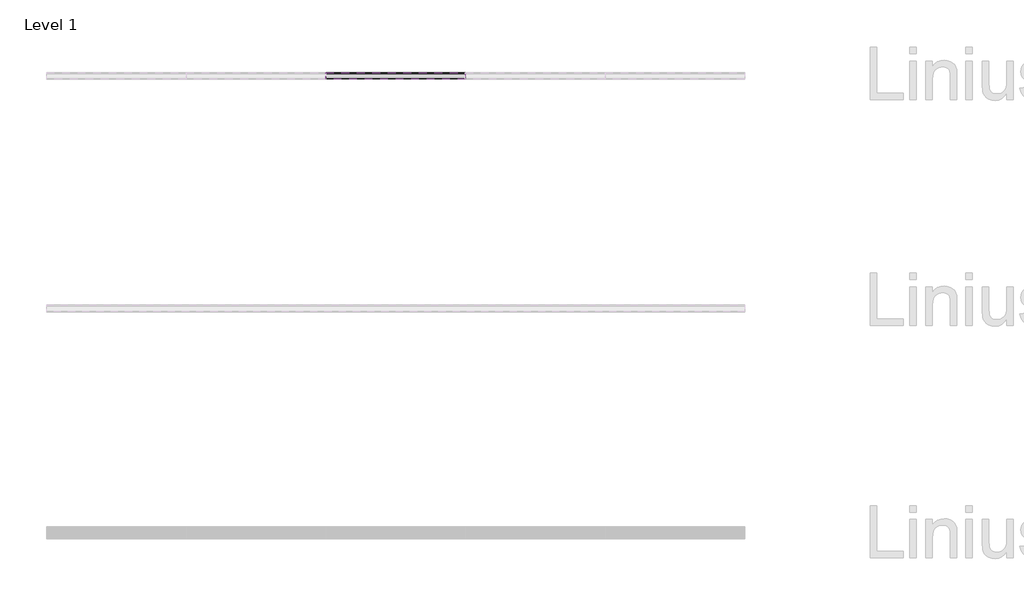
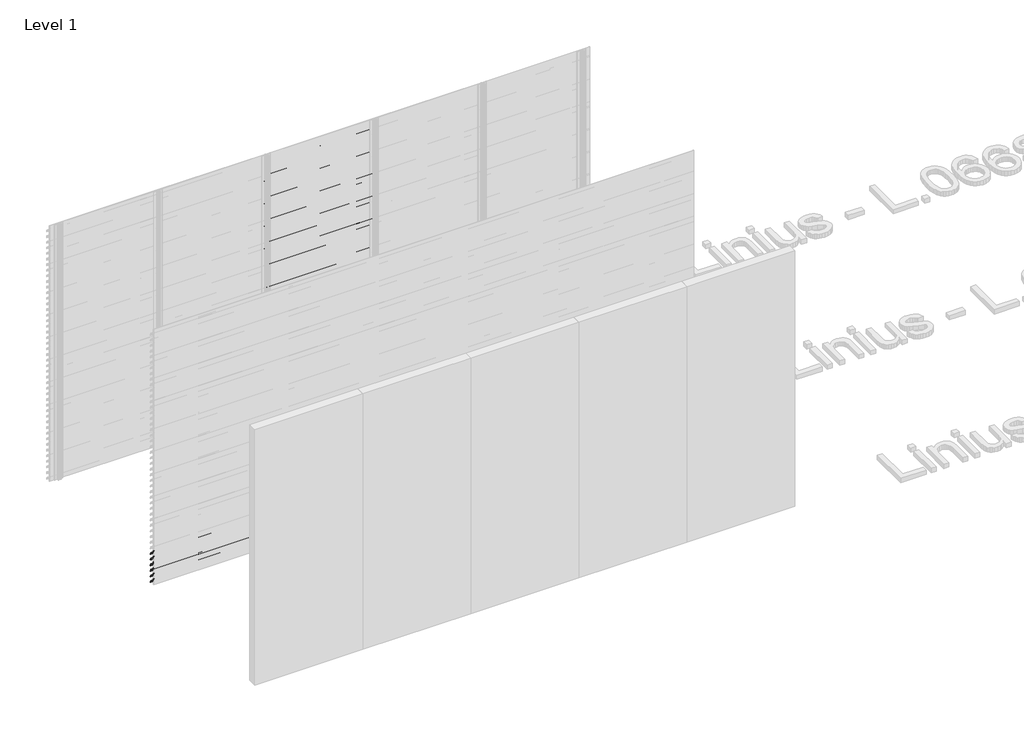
# One storey, part 121 of 540: 43 proxies.
"""IFC4 building model written with IfcOpenShell, lengths in millimetres."""

from ifc_helpers import new_model, si_unit, point, frame, frame_2d, origin, place, context, project, spatial, polyline, circle_curve, trimmed, segment, composite_curve, outline, extrude, element, save

model = new_model("IFC4")

# Units and contexts
model_context = context("Model", 3, world=origin())
ifc_project = project(units=[si_unit("LENGTHUNIT", "METRE", prefix="MILLI")], contexts=[model_context])

# Site, building, storey
site = spatial("IfcSite", under=ifc_project)
building = spatial("IfcBuilding", under=site)
storey = spatial("IfcBuildingStorey", under=building, Name="Level 1", Elevation=0.0)

# Proxies
placement = place(None, origin())
element("IfcBuildingElementProxy", 1, Name="Wall Sweeps", at=placement, inside=storey, context=model_context, shape_type="SweptSolid", body=[
    extrude(outline(composite_curve([segment(trimmed(circle_curve(frame_2d((7017.5825412, 2899.7676769)), 26.4944656), [point((7034.5447587, 2920.1205608))], [point((7044.0270068, 2901.3946208))], False, "CARTESIAN"), True, "CONTINUOUS"), segment(polyline([(7044.0270068, 2901.3946208), (7044.0270068, 2893.5), (7042.7770068, 2894.2216933), (7042.7770068, 2899.7676769)]), True, "CONTINUOUS"), segment(trimmed(circle_curve(frame_2d((7017.5825412, 2899.7676769)), 25.1944656), [point((7042.7770068, 2899.7676769))], [point((7033.7545017, 2919.086807))], True, "CARTESIAN"), True, "CONTINUOUS"), segment(polyline([(7033.7545017, 2919.086807), (6989.0270068, 2950.3158044), (6989.0270068, 2970.0), (6990.2770068, 2970.0), (6990.2770068, 2951.0285629), (7034.5447587, 2920.1205608)]), True, "CONTINUOUS")], self_intersect=False)), frame((91866.6208097, 0.0, 0.0), z_axis=(1.0, 0.0, 0.0), x_axis=(0.0, 1.0, 0.0)), (0.0, 0.0, 1.0), 1199.9999999),
])
element("IfcBuildingElementProxy", 2, Name="Wall Sweeps", at=placement, inside=storey, context=model_context, shape_type="SweptSolid", body=[
    extrude(outline(composite_curve([segment(trimmed(circle_curve(frame_2d((7017.5825412, 2833.7676769)), 26.4944656), [point((7034.5447587, 2854.1205608))], [point((7044.0270068, 2835.3946208))], False, "CARTESIAN"), True, "CONTINUOUS"), segment(polyline([(7044.0270068, 2835.3946208), (7044.0270068, 2827.5), (7042.7770068, 2828.2216933), (7042.7770068, 2833.7676769)]), True, "CONTINUOUS"), segment(trimmed(circle_curve(frame_2d((7017.5825412, 2833.7676769)), 25.1944656), [point((7042.7770068, 2833.7676769))], [point((7033.7545017, 2853.086807))], True, "CARTESIAN"), True, "CONTINUOUS"), segment(polyline([(7033.7545017, 2853.086807), (6989.0270068, 2884.3158044), (6989.0270068, 2904.0), (6990.2770068, 2904.0), (6990.2770068, 2885.0285629), (7034.5447587, 2854.1205608)]), True, "CONTINUOUS")], self_intersect=False)), frame((91866.6208097, 0.0, 0.0), z_axis=(1.0, 0.0, 0.0), x_axis=(0.0, 1.0, 0.0)), (0.0, 0.0, 1.0), 1199.9999999),
])
element("IfcBuildingElementProxy", 3, Name="Wall Sweeps", at=placement, inside=storey, context=model_context, shape_type="SweptSolid", body=[
    extrude(outline(composite_curve([segment(trimmed(circle_curve(frame_2d((7017.5825412, 2767.7676769)), 26.4944656), [point((7034.5447587, 2788.1205608))], [point((7044.0270068, 2769.3946208))], False, "CARTESIAN"), True, "CONTINUOUS"), segment(polyline([(7044.0270068, 2769.3946208), (7044.0270068, 2761.5), (7042.7770068, 2762.2216933), (7042.7770068, 2767.7676769)]), True, "CONTINUOUS"), segment(trimmed(circle_curve(frame_2d((7017.5825412, 2767.7676769)), 25.1944656), [point((7042.7770068, 2767.7676769))], [point((7033.7545017, 2787.086807))], True, "CARTESIAN"), True, "CONTINUOUS"), segment(polyline([(7033.7545017, 2787.086807), (6989.0270068, 2818.3158044), (6989.0270068, 2838.0), (6990.2770068, 2838.0), (6990.2770068, 2819.0285629), (7034.5447587, 2788.1205608)]), True, "CONTINUOUS")], self_intersect=False)), frame((91866.6208097, 0.0, 0.0), z_axis=(1.0, 0.0, 0.0), x_axis=(0.0, 1.0, 0.0)), (0.0, 0.0, 1.0), 1199.9999999),
])
element("IfcBuildingElementProxy", 4, Name="Wall Sweeps", at=placement, inside=storey, context=model_context, shape_type="SweptSolid", body=[
    extrude(outline(composite_curve([segment(trimmed(circle_curve(frame_2d((7017.5825412, 2701.7676769)), 26.4944656), [point((7034.5447587, 2722.1205608))], [point((7044.0270068, 2703.3946208))], False, "CARTESIAN"), True, "CONTINUOUS"), segment(polyline([(7044.0270068, 2703.3946208), (7044.0270068, 2695.5), (7042.7770068, 2696.2216933), (7042.7770068, 2701.7676769)]), True, "CONTINUOUS"), segment(trimmed(circle_curve(frame_2d((7017.5825412, 2701.7676769)), 25.1944656), [point((7042.7770068, 2701.7676769))], [point((7033.7545017, 2721.086807))], True, "CARTESIAN"), True, "CONTINUOUS"), segment(polyline([(7033.7545017, 2721.086807), (6989.0270068, 2752.3158044), (6989.0270068, 2772.0), (6990.2770068, 2772.0), (6990.2770068, 2753.0285629), (7034.5447587, 2722.1205608)]), True, "CONTINUOUS")], self_intersect=False)), frame((91866.6208097, 0.0, 0.0), z_axis=(1.0, 0.0, 0.0), x_axis=(0.0, 1.0, 0.0)), (0.0, 0.0, 1.0), 1199.9999999),
])
element("IfcBuildingElementProxy", 5, Name="Wall Sweeps", at=placement, inside=storey, context=model_context, shape_type="SweptSolid", body=[
    extrude(outline(composite_curve([segment(trimmed(circle_curve(frame_2d((7017.5825412, 2635.7676769)), 26.4944656), [point((7034.5447587, 2656.1205608))], [point((7044.0270068, 2637.3946208))], False, "CARTESIAN"), True, "CONTINUOUS"), segment(polyline([(7044.0270068, 2637.3946208), (7044.0270068, 2629.5), (7042.7770068, 2630.2216933), (7042.7770068, 2635.7676769)]), True, "CONTINUOUS"), segment(trimmed(circle_curve(frame_2d((7017.5825412, 2635.7676769)), 25.1944656), [point((7042.7770068, 2635.7676769))], [point((7033.7545017, 2655.086807))], True, "CARTESIAN"), True, "CONTINUOUS"), segment(polyline([(7033.7545017, 2655.086807), (6989.0270068, 2686.3158044), (6989.0270068, 2706.0), (6990.2770068, 2706.0), (6990.2770068, 2687.0285629), (7034.5447587, 2656.1205608)]), True, "CONTINUOUS")], self_intersect=False)), frame((91866.6208097, 0.0, 0.0), z_axis=(1.0, 0.0, 0.0), x_axis=(0.0, 1.0, 0.0)), (0.0, 0.0, 1.0), 1199.9999999),
])
element("IfcBuildingElementProxy", 6, Name="Wall Sweeps", at=placement, inside=storey, context=model_context, shape_type="SweptSolid", body=[
    extrude(outline(composite_curve([segment(trimmed(circle_curve(frame_2d((7017.5825412, 2569.7676769)), 26.4944656), [point((7034.5447587, 2590.1205608))], [point((7044.0270068, 2571.3946208))], False, "CARTESIAN"), True, "CONTINUOUS"), segment(polyline([(7044.0270068, 2571.3946208), (7044.0270068, 2563.5), (7042.7770068, 2564.2216933), (7042.7770068, 2569.7676769)]), True, "CONTINUOUS"), segment(trimmed(circle_curve(frame_2d((7017.5825412, 2569.7676769)), 25.1944656), [point((7042.7770068, 2569.7676769))], [point((7033.7545017, 2589.086807))], True, "CARTESIAN"), True, "CONTINUOUS"), segment(polyline([(7033.7545017, 2589.086807), (6989.0270068, 2620.3158044), (6989.0270068, 2640.0), (6990.2770068, 2640.0), (6990.2770068, 2621.0285629), (7034.5447587, 2590.1205608)]), True, "CONTINUOUS")], self_intersect=False)), frame((91866.6208097, 0.0, 0.0), z_axis=(1.0, 0.0, 0.0), x_axis=(0.0, 1.0, 0.0)), (0.0, 0.0, 1.0), 1199.9999999),
])
element("IfcBuildingElementProxy", 7, Name="Wall Sweeps", at=placement, inside=storey, context=model_context, shape_type="SweptSolid", body=[
    extrude(outline(composite_curve([segment(trimmed(circle_curve(frame_2d((7017.5825412, 2503.7676769)), 26.4944656), [point((7034.5447587, 2524.1205608))], [point((7044.0270068, 2505.3946208))], False, "CARTESIAN"), True, "CONTINUOUS"), segment(polyline([(7044.0270068, 2505.3946208), (7044.0270068, 2497.5), (7042.7770068, 2498.2216933), (7042.7770068, 2503.7676769)]), True, "CONTINUOUS"), segment(trimmed(circle_curve(frame_2d((7017.5825412, 2503.7676769)), 25.1944656), [point((7042.7770068, 2503.7676769))], [point((7033.7545017, 2523.086807))], True, "CARTESIAN"), True, "CONTINUOUS"), segment(polyline([(7033.7545017, 2523.086807), (6989.0270068, 2554.3158044), (6989.0270068, 2574.0), (6990.2770068, 2574.0), (6990.2770068, 2555.0285629), (7034.5447587, 2524.1205608)]), True, "CONTINUOUS")], self_intersect=False)), frame((91866.6208097, 0.0, 0.0), z_axis=(1.0, 0.0, 0.0), x_axis=(0.0, 1.0, 0.0)), (0.0, 0.0, 1.0), 1199.9999999),
])
element("IfcBuildingElementProxy", 8, Name="Wall Sweeps", at=placement, inside=storey, context=model_context, shape_type="SweptSolid", body=[
    extrude(outline(composite_curve([segment(trimmed(circle_curve(frame_2d((7017.5825412, 2437.7676769)), 26.4944656), [point((7034.5447587, 2458.1205608))], [point((7044.0270068, 2439.3946208))], False, "CARTESIAN"), True, "CONTINUOUS"), segment(polyline([(7044.0270068, 2439.3946208), (7044.0270068, 2431.5), (7042.7770068, 2432.2216933), (7042.7770068, 2437.7676769)]), True, "CONTINUOUS"), segment(trimmed(circle_curve(frame_2d((7017.5825412, 2437.7676769)), 25.1944656), [point((7042.7770068, 2437.7676769))], [point((7033.7545017, 2457.086807))], True, "CARTESIAN"), True, "CONTINUOUS"), segment(polyline([(7033.7545017, 2457.086807), (6989.0270068, 2488.3158044), (6989.0270068, 2508.0), (6990.2770068, 2508.0), (6990.2770068, 2489.0285629), (7034.5447587, 2458.1205608)]), True, "CONTINUOUS")], self_intersect=False)), frame((91866.6208097, 0.0, 0.0), z_axis=(1.0, 0.0, 0.0), x_axis=(0.0, 1.0, 0.0)), (0.0, 0.0, 1.0), 1199.9999999),
])
element("IfcBuildingElementProxy", 9, Name="Wall Sweeps", at=placement, inside=storey, context=model_context, shape_type="SweptSolid", body=[
    extrude(outline(composite_curve([segment(trimmed(circle_curve(frame_2d((7017.5825412, 2371.7676769)), 26.4944656), [point((7034.5447587, 2392.1205608))], [point((7044.0270068, 2373.3946208))], False, "CARTESIAN"), True, "CONTINUOUS"), segment(polyline([(7044.0270068, 2373.3946208), (7044.0270068, 2365.5), (7042.7770068, 2366.2216933), (7042.7770068, 2371.7676769)]), True, "CONTINUOUS"), segment(trimmed(circle_curve(frame_2d((7017.5825412, 2371.7676769)), 25.1944656), [point((7042.7770068, 2371.7676769))], [point((7033.7545017, 2391.086807))], True, "CARTESIAN"), True, "CONTINUOUS"), segment(polyline([(7033.7545017, 2391.086807), (6989.0270068, 2422.3158044), (6989.0270068, 2442.0), (6990.2770068, 2442.0), (6990.2770068, 2423.0285629), (7034.5447587, 2392.1205608)]), True, "CONTINUOUS")], self_intersect=False)), frame((91866.6208097, 0.0, 0.0), z_axis=(1.0, 0.0, 0.0), x_axis=(0.0, 1.0, 0.0)), (0.0, 0.0, 1.0), 1199.9999999),
])
element("IfcBuildingElementProxy", 10, Name="Wall Sweeps", at=placement, inside=storey, context=model_context, shape_type="SweptSolid", body=[
    extrude(outline(composite_curve([segment(trimmed(circle_curve(frame_2d((7017.5825412, 2305.7676769)), 26.4944656), [point((7034.5447587, 2326.1205608))], [point((7044.0270068, 2307.3946208))], False, "CARTESIAN"), True, "CONTINUOUS"), segment(polyline([(7044.0270068, 2307.3946208), (7044.0270068, 2299.5), (7042.7770068, 2300.2216933), (7042.7770068, 2305.7676769)]), True, "CONTINUOUS"), segment(trimmed(circle_curve(frame_2d((7017.5825412, 2305.7676769)), 25.1944656), [point((7042.7770068, 2305.7676769))], [point((7033.7545017, 2325.086807))], True, "CARTESIAN"), True, "CONTINUOUS"), segment(polyline([(7033.7545017, 2325.086807), (6989.0270068, 2356.3158044), (6989.0270068, 2376.0), (6990.2770068, 2376.0), (6990.2770068, 2357.0285629), (7034.5447587, 2326.1205608)]), True, "CONTINUOUS")], self_intersect=False)), frame((91866.6208097, 0.0, 0.0), z_axis=(1.0, 0.0, 0.0), x_axis=(0.0, 1.0, 0.0)), (0.0, 0.0, 1.0), 1199.9999999),
])
element("IfcBuildingElementProxy", 11, Name="Wall Sweeps", at=placement, inside=storey, context=model_context, shape_type="SweptSolid", body=[
    extrude(outline(composite_curve([segment(trimmed(circle_curve(frame_2d((7017.5825412, 2239.7676769)), 26.4944656), [point((7034.5447587, 2260.1205608))], [point((7044.0270068, 2241.3946208))], False, "CARTESIAN"), True, "CONTINUOUS"), segment(polyline([(7044.0270068, 2241.3946208), (7044.0270068, 2233.5), (7042.7770068, 2234.2216933), (7042.7770068, 2239.7676769)]), True, "CONTINUOUS"), segment(trimmed(circle_curve(frame_2d((7017.5825412, 2239.7676769)), 25.1944656), [point((7042.7770068, 2239.7676769))], [point((7033.7545017, 2259.086807))], True, "CARTESIAN"), True, "CONTINUOUS"), segment(polyline([(7033.7545017, 2259.086807), (6989.0270068, 2290.3158044), (6989.0270068, 2310.0), (6990.2770068, 2310.0), (6990.2770068, 2291.0285629), (7034.5447587, 2260.1205608)]), True, "CONTINUOUS")], self_intersect=False)), frame((91866.6208097, 0.0, 0.0), z_axis=(1.0, 0.0, 0.0), x_axis=(0.0, 1.0, 0.0)), (0.0, 0.0, 1.0), 1199.9999999),
])
element("IfcBuildingElementProxy", 12, Name="Wall Sweeps", at=placement, inside=storey, context=model_context, shape_type="SweptSolid", body=[
    extrude(outline(composite_curve([segment(trimmed(circle_curve(frame_2d((7017.5825412, 2173.7676769)), 26.4944656), [point((7034.5447587, 2194.1205608))], [point((7044.0270068, 2175.3946208))], False, "CARTESIAN"), True, "CONTINUOUS"), segment(polyline([(7044.0270068, 2175.3946208), (7044.0270068, 2167.5), (7042.7770068, 2168.2216933), (7042.7770068, 2173.7676769)]), True, "CONTINUOUS"), segment(trimmed(circle_curve(frame_2d((7017.5825412, 2173.7676769)), 25.1944656), [point((7042.7770068, 2173.7676769))], [point((7033.7545017, 2193.086807))], True, "CARTESIAN"), True, "CONTINUOUS"), segment(polyline([(7033.7545017, 2193.086807), (6989.0270068, 2224.3158044), (6989.0270068, 2244.0), (6990.2770068, 2244.0), (6990.2770068, 2225.0285629), (7034.5447587, 2194.1205608)]), True, "CONTINUOUS")], self_intersect=False)), frame((91866.6208097, 0.0, 0.0), z_axis=(1.0, 0.0, 0.0), x_axis=(0.0, 1.0, 0.0)), (0.0, 0.0, 1.0), 1199.9999999),
])
element("IfcBuildingElementProxy", 13, Name="Wall Sweeps", at=placement, inside=storey, context=model_context, shape_type="SweptSolid", body=[
    extrude(outline(composite_curve([segment(trimmed(circle_curve(frame_2d((7017.5825412, 2107.7676769)), 26.4944656), [point((7034.5447587, 2128.1205608))], [point((7044.0270068, 2109.3946208))], False, "CARTESIAN"), True, "CONTINUOUS"), segment(polyline([(7044.0270068, 2109.3946208), (7044.0270068, 2101.5), (7042.7770068, 2102.2216933), (7042.7770068, 2107.7676769)]), True, "CONTINUOUS"), segment(trimmed(circle_curve(frame_2d((7017.5825412, 2107.7676769)), 25.1944656), [point((7042.7770068, 2107.7676769))], [point((7033.7545017, 2127.086807))], True, "CARTESIAN"), True, "CONTINUOUS"), segment(polyline([(7033.7545017, 2127.086807), (6989.0270068, 2158.3158044), (6989.0270068, 2178.0), (6990.2770068, 2178.0), (6990.2770068, 2159.0285629), (7034.5447587, 2128.1205608)]), True, "CONTINUOUS")], self_intersect=False)), frame((91866.6208097, 0.0, 0.0), z_axis=(1.0, 0.0, 0.0), x_axis=(0.0, 1.0, 0.0)), (0.0, 0.0, 1.0), 1199.9999999),
])
element("IfcBuildingElementProxy", 14, Name="Wall Sweeps", at=placement, inside=storey, context=model_context, shape_type="SweptSolid", body=[
    extrude(outline(composite_curve([segment(trimmed(circle_curve(frame_2d((7017.5825412, 2041.7676769)), 26.4944656), [point((7034.5447587, 2062.1205608))], [point((7044.0270068, 2043.3946208))], False, "CARTESIAN"), True, "CONTINUOUS"), segment(polyline([(7044.0270068, 2043.3946208), (7044.0270068, 2035.5), (7042.7770068, 2036.2216933), (7042.7770068, 2041.7676769)]), True, "CONTINUOUS"), segment(trimmed(circle_curve(frame_2d((7017.5825412, 2041.7676769)), 25.1944656), [point((7042.7770068, 2041.7676769))], [point((7033.7545017, 2061.086807))], True, "CARTESIAN"), True, "CONTINUOUS"), segment(polyline([(7033.7545017, 2061.086807), (6989.0270068, 2092.3158044), (6989.0270068, 2112.0), (6990.2770068, 2112.0), (6990.2770068, 2093.0285629), (7034.5447587, 2062.1205608)]), True, "CONTINUOUS")], self_intersect=False)), frame((91866.6208097, 0.0, 0.0), z_axis=(1.0, 0.0, 0.0), x_axis=(0.0, 1.0, 0.0)), (0.0, 0.0, 1.0), 1199.9999999),
])
element("IfcBuildingElementProxy", 15, Name="Wall Sweeps", at=placement, inside=storey, context=model_context, shape_type="SweptSolid", body=[
    extrude(outline(composite_curve([segment(trimmed(circle_curve(frame_2d((7017.5825412, 1975.7676769)), 26.4944656), [point((7034.5447587, 1996.1205608))], [point((7044.0270068, 1977.3946208))], False, "CARTESIAN"), True, "CONTINUOUS"), segment(polyline([(7044.0270068, 1977.3946208), (7044.0270068, 1969.5), (7042.7770068, 1970.2216933), (7042.7770068, 1975.7676769)]), True, "CONTINUOUS"), segment(trimmed(circle_curve(frame_2d((7017.5825412, 1975.7676769)), 25.1944656), [point((7042.7770068, 1975.7676769))], [point((7033.7545017, 1995.086807))], True, "CARTESIAN"), True, "CONTINUOUS"), segment(polyline([(7033.7545017, 1995.086807), (6989.0270068, 2026.3158044), (6989.0270068, 2046.0), (6990.2770068, 2046.0), (6990.2770068, 2027.0285629), (7034.5447587, 1996.1205608)]), True, "CONTINUOUS")], self_intersect=False)), frame((91866.6208097, 0.0, 0.0), z_axis=(1.0, 0.0, 0.0), x_axis=(0.0, 1.0, 0.0)), (0.0, 0.0, 1.0), 1199.9999999),
])
element("IfcBuildingElementProxy", 16, Name="Wall Sweeps", at=placement, inside=storey, context=model_context, shape_type="SweptSolid", body=[
    extrude(outline(composite_curve([segment(trimmed(circle_curve(frame_2d((7017.5825412, 1909.7676769)), 26.4944656), [point((7034.5447587, 1930.1205608))], [point((7044.0270068, 1911.3946208))], False, "CARTESIAN"), True, "CONTINUOUS"), segment(polyline([(7044.0270068, 1911.3946208), (7044.0270068, 1903.5), (7042.7770068, 1904.2216933), (7042.7770068, 1909.7676769)]), True, "CONTINUOUS"), segment(trimmed(circle_curve(frame_2d((7017.5825412, 1909.7676769)), 25.1944656), [point((7042.7770068, 1909.7676769))], [point((7033.7545017, 1929.086807))], True, "CARTESIAN"), True, "CONTINUOUS"), segment(polyline([(7033.7545017, 1929.086807), (6989.0270068, 1960.3158044), (6989.0270068, 1980.0), (6990.2770068, 1980.0), (6990.2770068, 1961.0285629), (7034.5447587, 1930.1205608)]), True, "CONTINUOUS")], self_intersect=False)), frame((91866.6208097, 0.0, 0.0), z_axis=(1.0, 0.0, 0.0), x_axis=(0.0, 1.0, 0.0)), (0.0, 0.0, 1.0), 1199.9999999),
])
element("IfcBuildingElementProxy", 17, Name="Wall Sweeps", at=placement, inside=storey, context=model_context, shape_type="SweptSolid", body=[
    extrude(outline(composite_curve([segment(trimmed(circle_curve(frame_2d((7017.5825412, 1843.7676769)), 26.4944656), [point((7034.5447587, 1864.1205608))], [point((7044.0270068, 1845.3946208))], False, "CARTESIAN"), True, "CONTINUOUS"), segment(polyline([(7044.0270068, 1845.3946208), (7044.0270068, 1837.5), (7042.7770068, 1838.2216933), (7042.7770068, 1843.7676769)]), True, "CONTINUOUS"), segment(trimmed(circle_curve(frame_2d((7017.5825412, 1843.7676769)), 25.1944656), [point((7042.7770068, 1843.7676769))], [point((7033.7545017, 1863.086807))], True, "CARTESIAN"), True, "CONTINUOUS"), segment(polyline([(7033.7545017, 1863.086807), (6989.0270068, 1894.3158044), (6989.0270068, 1914.0), (6990.2770068, 1914.0), (6990.2770068, 1895.0285629), (7034.5447587, 1864.1205608)]), True, "CONTINUOUS")], self_intersect=False)), frame((91866.6208097, 0.0, 0.0), z_axis=(1.0, 0.0, 0.0), x_axis=(0.0, 1.0, 0.0)), (0.0, 0.0, 1.0), 1199.9999999),
])
element("IfcBuildingElementProxy", 18, Name="Wall Sweeps", at=placement, inside=storey, context=model_context, shape_type="SweptSolid", body=[
    extrude(outline(composite_curve([segment(trimmed(circle_curve(frame_2d((7017.5825412, 1777.7676769)), 26.4944656), [point((7034.5447587, 1798.1205608))], [point((7044.0270068, 1779.3946208))], False, "CARTESIAN"), True, "CONTINUOUS"), segment(polyline([(7044.0270068, 1779.3946208), (7044.0270068, 1771.5), (7042.7770068, 1772.2216933), (7042.7770068, 1777.7676769)]), True, "CONTINUOUS"), segment(trimmed(circle_curve(frame_2d((7017.5825412, 1777.7676769)), 25.1944656), [point((7042.7770068, 1777.7676769))], [point((7033.7545017, 1797.086807))], True, "CARTESIAN"), True, "CONTINUOUS"), segment(polyline([(7033.7545017, 1797.086807), (6989.0270068, 1828.3158044), (6989.0270068, 1848.0), (6990.2770068, 1848.0), (6990.2770068, 1829.0285629), (7034.5447587, 1798.1205608)]), True, "CONTINUOUS")], self_intersect=False)), frame((91866.6208097, 0.0, 0.0), z_axis=(1.0, 0.0, 0.0), x_axis=(0.0, 1.0, 0.0)), (0.0, 0.0, 1.0), 1199.9999999),
])
element("IfcBuildingElementProxy", 19, Name="Wall Sweeps", at=placement, inside=storey, context=model_context, shape_type="SweptSolid", body=[
    extrude(outline(composite_curve([segment(trimmed(circle_curve(frame_2d((7017.5825412, 1711.7676769)), 26.4944656), [point((7034.5447587, 1732.1205608))], [point((7044.0270068, 1713.3946208))], False, "CARTESIAN"), True, "CONTINUOUS"), segment(polyline([(7044.0270068, 1713.3946208), (7044.0270068, 1705.5), (7042.7770068, 1706.2216933), (7042.7770068, 1711.7676769)]), True, "CONTINUOUS"), segment(trimmed(circle_curve(frame_2d((7017.5825412, 1711.7676769)), 25.1944656), [point((7042.7770068, 1711.7676769))], [point((7033.7545017, 1731.086807))], True, "CARTESIAN"), True, "CONTINUOUS"), segment(polyline([(7033.7545017, 1731.086807), (6989.0270068, 1762.3158044), (6989.0270068, 1782.0), (6990.2770068, 1782.0), (6990.2770068, 1763.0285629), (7034.5447587, 1732.1205608)]), True, "CONTINUOUS")], self_intersect=False)), frame((91866.6208097, 0.0, 0.0), z_axis=(1.0, 0.0, 0.0), x_axis=(0.0, 1.0, 0.0)), (0.0, 0.0, 1.0), 1199.9999999),
])
element("IfcBuildingElementProxy", 20, Name="Wall Sweeps", at=placement, inside=storey, context=model_context, shape_type="SweptSolid", body=[
    extrude(outline(composite_curve([segment(trimmed(circle_curve(frame_2d((7017.5825412, 1645.7676769)), 26.4944656), [point((7034.5447587, 1666.1205608))], [point((7044.0270068, 1647.3946208))], False, "CARTESIAN"), True, "CONTINUOUS"), segment(polyline([(7044.0270068, 1647.3946208), (7044.0270068, 1639.5), (7042.7770068, 1640.2216933), (7042.7770068, 1645.7676769)]), True, "CONTINUOUS"), segment(trimmed(circle_curve(frame_2d((7017.5825412, 1645.7676769)), 25.1944656), [point((7042.7770068, 1645.7676769))], [point((7033.7545017, 1665.086807))], True, "CARTESIAN"), True, "CONTINUOUS"), segment(polyline([(7033.7545017, 1665.086807), (6989.0270068, 1696.3158044), (6989.0270068, 1716.0), (6990.2770068, 1716.0), (6990.2770068, 1697.0285629), (7034.5447587, 1666.1205608)]), True, "CONTINUOUS")], self_intersect=False)), frame((91866.6208097, 0.0, 0.0), z_axis=(1.0, 0.0, 0.0), x_axis=(0.0, 1.0, 0.0)), (0.0, 0.0, 1.0), 1199.9999999),
])
element("IfcBuildingElementProxy", 21, Name="Wall Sweeps", at=placement, inside=storey, context=model_context, shape_type="SweptSolid", body=[
    extrude(outline(composite_curve([segment(trimmed(circle_curve(frame_2d((7017.5825412, 1579.7676769)), 26.4944656), [point((7034.5447587, 1600.1205608))], [point((7044.0270068, 1581.3946208))], False, "CARTESIAN"), True, "CONTINUOUS"), segment(polyline([(7044.0270068, 1581.3946208), (7044.0270068, 1573.5), (7042.7770068, 1574.2216933), (7042.7770068, 1579.7676769)]), True, "CONTINUOUS"), segment(trimmed(circle_curve(frame_2d((7017.5825412, 1579.7676769)), 25.1944656), [point((7042.7770068, 1579.7676769))], [point((7033.7545017, 1599.086807))], True, "CARTESIAN"), True, "CONTINUOUS"), segment(polyline([(7033.7545017, 1599.086807), (6989.0270068, 1630.3158044), (6989.0270068, 1650.0), (6990.2770068, 1650.0), (6990.2770068, 1631.0285629), (7034.5447587, 1600.1205608)]), True, "CONTINUOUS")], self_intersect=False)), frame((91866.6208097, 0.0, 0.0), z_axis=(1.0, 0.0, 0.0), x_axis=(0.0, 1.0, 0.0)), (0.0, 0.0, 1.0), 1199.9999999),
])
element("IfcBuildingElementProxy", 22, Name="Wall Sweeps", at=placement, inside=storey, context=model_context, shape_type="SweptSolid", body=[
    extrude(outline(composite_curve([segment(trimmed(circle_curve(frame_2d((7017.5825412, 1513.7676769)), 26.4944656), [point((7034.5447587, 1534.1205608))], [point((7044.0270068, 1515.3946208))], False, "CARTESIAN"), True, "CONTINUOUS"), segment(polyline([(7044.0270068, 1515.3946208), (7044.0270068, 1507.5), (7042.7770068, 1508.2216933), (7042.7770068, 1513.7676769)]), True, "CONTINUOUS"), segment(trimmed(circle_curve(frame_2d((7017.5825412, 1513.7676769)), 25.1944656), [point((7042.7770068, 1513.7676769))], [point((7033.7545017, 1533.086807))], True, "CARTESIAN"), True, "CONTINUOUS"), segment(polyline([(7033.7545017, 1533.086807), (6989.0270068, 1564.3158044), (6989.0270068, 1584.0), (6990.2770068, 1584.0), (6990.2770068, 1565.0285629), (7034.5447587, 1534.1205608)]), True, "CONTINUOUS")], self_intersect=False)), frame((91866.6208097, 0.0, 0.0), z_axis=(1.0, 0.0, 0.0), x_axis=(0.0, 1.0, 0.0)), (0.0, 0.0, 1.0), 1199.9999999),
])
element("IfcBuildingElementProxy", 23, Name="Wall Sweeps", at=placement, inside=storey, context=model_context, shape_type="SweptSolid", body=[
    extrude(outline(composite_curve([segment(trimmed(circle_curve(frame_2d((7017.5825412, 1447.7676769)), 26.4944656), [point((7034.5447587, 1468.1205608))], [point((7044.0270068, 1449.3946208))], False, "CARTESIAN"), True, "CONTINUOUS"), segment(polyline([(7044.0270068, 1449.3946208), (7044.0270068, 1441.5), (7042.7770068, 1442.2216933), (7042.7770068, 1447.7676769)]), True, "CONTINUOUS"), segment(trimmed(circle_curve(frame_2d((7017.5825412, 1447.7676769)), 25.1944656), [point((7042.7770068, 1447.7676769))], [point((7033.7545017, 1467.086807))], True, "CARTESIAN"), True, "CONTINUOUS"), segment(polyline([(7033.7545017, 1467.086807), (6989.0270068, 1498.3158044), (6989.0270068, 1518.0), (6990.2770068, 1518.0), (6990.2770068, 1499.0285629), (7034.5447587, 1468.1205608)]), True, "CONTINUOUS")], self_intersect=False)), frame((91866.6208097, 0.0, 0.0), z_axis=(1.0, 0.0, 0.0), x_axis=(0.0, 1.0, 0.0)), (0.0, 0.0, 1.0), 1199.9999999),
])
element("IfcBuildingElementProxy", 24, Name="Wall Sweeps", at=placement, inside=storey, context=model_context, shape_type="SweptSolid", body=[
    extrude(outline(composite_curve([segment(trimmed(circle_curve(frame_2d((7017.5825412, 1381.7676769)), 26.4944656), [point((7034.5447587, 1402.1205608))], [point((7044.0270068, 1383.3946208))], False, "CARTESIAN"), True, "CONTINUOUS"), segment(polyline([(7044.0270068, 1383.3946208), (7044.0270068, 1375.5), (7042.7770068, 1376.2216933), (7042.7770068, 1381.7676769)]), True, "CONTINUOUS"), segment(trimmed(circle_curve(frame_2d((7017.5825412, 1381.7676769)), 25.1944656), [point((7042.7770068, 1381.7676769))], [point((7033.7545017, 1401.086807))], True, "CARTESIAN"), True, "CONTINUOUS"), segment(polyline([(7033.7545017, 1401.086807), (6989.0270068, 1432.3158044), (6989.0270068, 1452.0), (6990.2770068, 1452.0), (6990.2770068, 1433.0285629), (7034.5447587, 1402.1205608)]), True, "CONTINUOUS")], self_intersect=False)), frame((91866.6208097, 0.0, 0.0), z_axis=(1.0, 0.0, 0.0), x_axis=(0.0, 1.0, 0.0)), (0.0, 0.0, 1.0), 1199.9999999),
])
element("IfcBuildingElementProxy", 25, Name="Wall Sweeps", at=placement, inside=storey, context=model_context, shape_type="SweptSolid", body=[
    extrude(outline(composite_curve([segment(trimmed(circle_curve(frame_2d((7017.5825412, 1315.7676769)), 26.4944656), [point((7034.5447587, 1336.1205608))], [point((7044.0270068, 1317.3946208))], False, "CARTESIAN"), True, "CONTINUOUS"), segment(polyline([(7044.0270068, 1317.3946208), (7044.0270068, 1309.5), (7042.7770068, 1310.2216933), (7042.7770068, 1315.7676769)]), True, "CONTINUOUS"), segment(trimmed(circle_curve(frame_2d((7017.5825412, 1315.7676769)), 25.1944656), [point((7042.7770068, 1315.7676769))], [point((7033.7545017, 1335.086807))], True, "CARTESIAN"), True, "CONTINUOUS"), segment(polyline([(7033.7545017, 1335.086807), (6989.0270068, 1366.3158044), (6989.0270068, 1386.0), (6990.2770068, 1386.0), (6990.2770068, 1367.0285629), (7034.5447587, 1336.1205608)]), True, "CONTINUOUS")], self_intersect=False)), frame((91866.6208097, 0.0, 0.0), z_axis=(1.0, 0.0, 0.0), x_axis=(0.0, 1.0, 0.0)), (0.0, 0.0, 1.0), 1199.9999999),
])
element("IfcBuildingElementProxy", 26, Name="Wall Sweeps", at=placement, inside=storey, context=model_context, shape_type="SweptSolid", body=[
    extrude(outline(composite_curve([segment(trimmed(circle_curve(frame_2d((7017.5825412, 1249.7676769)), 26.4944656), [point((7034.5447587, 1270.1205608))], [point((7044.0270068, 1251.3946208))], False, "CARTESIAN"), True, "CONTINUOUS"), segment(polyline([(7044.0270068, 1251.3946208), (7044.0270068, 1243.5), (7042.7770068, 1244.2216933), (7042.7770068, 1249.7676769)]), True, "CONTINUOUS"), segment(trimmed(circle_curve(frame_2d((7017.5825412, 1249.7676769)), 25.1944656), [point((7042.7770068, 1249.7676769))], [point((7033.7545017, 1269.086807))], True, "CARTESIAN"), True, "CONTINUOUS"), segment(polyline([(7033.7545017, 1269.086807), (6989.0270068, 1300.3158044), (6989.0270068, 1320.0), (6990.2770068, 1320.0), (6990.2770068, 1301.0285629), (7034.5447587, 1270.1205608)]), True, "CONTINUOUS")], self_intersect=False)), frame((91866.6208097, 0.0, 0.0), z_axis=(1.0, 0.0, 0.0), x_axis=(0.0, 1.0, 0.0)), (0.0, 0.0, 1.0), 1199.9999999),
])
element("IfcBuildingElementProxy", 27, Name="Wall Sweeps", at=placement, inside=storey, context=model_context, shape_type="SweptSolid", body=[
    extrude(outline(composite_curve([segment(trimmed(circle_curve(frame_2d((7017.5825412, 1183.7676769)), 26.4944656), [point((7034.5447587, 1204.1205608))], [point((7044.0270068, 1185.3946208))], False, "CARTESIAN"), True, "CONTINUOUS"), segment(polyline([(7044.0270068, 1185.3946208), (7044.0270068, 1177.5), (7042.7770068, 1178.2216933), (7042.7770068, 1183.7676769)]), True, "CONTINUOUS"), segment(trimmed(circle_curve(frame_2d((7017.5825412, 1183.7676769)), 25.1944656), [point((7042.7770068, 1183.7676769))], [point((7033.7545017, 1203.086807))], True, "CARTESIAN"), True, "CONTINUOUS"), segment(polyline([(7033.7545017, 1203.086807), (6989.0270068, 1234.3158044), (6989.0270068, 1254.0), (6990.2770068, 1254.0), (6990.2770068, 1235.0285629), (7034.5447587, 1204.1205608)]), True, "CONTINUOUS")], self_intersect=False)), frame((91866.6208097, 0.0, 0.0), z_axis=(1.0, 0.0, 0.0), x_axis=(0.0, 1.0, 0.0)), (0.0, 0.0, 1.0), 1199.9999999),
])
element("IfcBuildingElementProxy", 28, Name="Wall Sweeps", at=placement, inside=storey, context=model_context, shape_type="SweptSolid", body=[
    extrude(outline(composite_curve([segment(trimmed(circle_curve(frame_2d((7017.5825412, 1117.7676769)), 26.4944656), [point((7034.5447587, 1138.1205608))], [point((7044.0270068, 1119.3946208))], False, "CARTESIAN"), True, "CONTINUOUS"), segment(polyline([(7044.0270068, 1119.3946208), (7044.0270068, 1111.5), (7042.7770068, 1112.2216933), (7042.7770068, 1117.7676769)]), True, "CONTINUOUS"), segment(trimmed(circle_curve(frame_2d((7017.5825412, 1117.7676769)), 25.1944656), [point((7042.7770068, 1117.7676769))], [point((7033.7545017, 1137.086807))], True, "CARTESIAN"), True, "CONTINUOUS"), segment(polyline([(7033.7545017, 1137.086807), (6989.0270068, 1168.3158044), (6989.0270068, 1188.0), (6990.2770068, 1188.0), (6990.2770068, 1169.0285629), (7034.5447587, 1138.1205608)]), True, "CONTINUOUS")], self_intersect=False)), frame((91866.6208097, 0.0, 0.0), z_axis=(1.0, 0.0, 0.0), x_axis=(0.0, 1.0, 0.0)), (0.0, 0.0, 1.0), 1199.9999999),
])
element("IfcBuildingElementProxy", 29, Name="Wall Sweeps", at=placement, inside=storey, context=model_context, shape_type="SweptSolid", body=[
    extrude(outline(composite_curve([segment(trimmed(circle_curve(frame_2d((7017.5825412, 1051.7676769)), 26.4944656), [point((7034.5447587, 1072.1205608))], [point((7044.0270068, 1053.3946208))], False, "CARTESIAN"), True, "CONTINUOUS"), segment(polyline([(7044.0270068, 1053.3946208), (7044.0270068, 1045.5), (7042.7770068, 1046.2216933), (7042.7770068, 1051.7676769)]), True, "CONTINUOUS"), segment(trimmed(circle_curve(frame_2d((7017.5825412, 1051.7676769)), 25.1944656), [point((7042.7770068, 1051.7676769))], [point((7033.7545017, 1071.086807))], True, "CARTESIAN"), True, "CONTINUOUS"), segment(polyline([(7033.7545017, 1071.086807), (6989.0270068, 1102.3158044), (6989.0270068, 1122.0), (6990.2770068, 1122.0), (6990.2770068, 1103.0285629), (7034.5447587, 1072.1205608)]), True, "CONTINUOUS")], self_intersect=False)), frame((91866.6208097, 0.0, 0.0), z_axis=(1.0, 0.0, 0.0), x_axis=(0.0, 1.0, 0.0)), (0.0, 0.0, 1.0), 1199.9999999),
])
element("IfcBuildingElementProxy", 30, Name="Wall Sweeps", at=placement, inside=storey, context=model_context, shape_type="SweptSolid", body=[
    extrude(outline(composite_curve([segment(trimmed(circle_curve(frame_2d((7017.5825412, 985.7676769)), 26.4944656), [point((7034.5447587, 1006.1205608))], [point((7044.0270068, 987.3946208))], False, "CARTESIAN"), True, "CONTINUOUS"), segment(polyline([(7044.0270068, 987.3946208), (7044.0270068, 979.5), (7042.7770068, 980.2216933), (7042.7770068, 985.7676769)]), True, "CONTINUOUS"), segment(trimmed(circle_curve(frame_2d((7017.5825412, 985.7676769)), 25.1944656), [point((7042.7770068, 985.7676769))], [point((7033.7545017, 1005.086807))], True, "CARTESIAN"), True, "CONTINUOUS"), segment(polyline([(7033.7545017, 1005.086807), (6989.0270068, 1036.3158044), (6989.0270068, 1056.0), (6990.2770068, 1056.0), (6990.2770068, 1037.0285629), (7034.5447587, 1006.1205608)]), True, "CONTINUOUS")], self_intersect=False)), frame((91866.6208097, 0.0, 0.0), z_axis=(1.0, 0.0, 0.0), x_axis=(0.0, 1.0, 0.0)), (0.0, 0.0, 1.0), 1199.9999999),
])
element("IfcBuildingElementProxy", 31, Name="Wall Sweeps", at=placement, inside=storey, context=model_context, shape_type="SweptSolid", body=[
    extrude(outline(composite_curve([segment(trimmed(circle_curve(frame_2d((7017.5825412, 919.7676769)), 26.4944656), [point((7034.5447587, 940.1205608))], [point((7044.0270068, 921.3946208))], False, "CARTESIAN"), True, "CONTINUOUS"), segment(polyline([(7044.0270068, 921.3946208), (7044.0270068, 913.5), (7042.7770068, 914.2216933), (7042.7770068, 919.7676769)]), True, "CONTINUOUS"), segment(trimmed(circle_curve(frame_2d((7017.5825412, 919.7676769)), 25.1944656), [point((7042.7770068, 919.7676769))], [point((7033.7545017, 939.086807))], True, "CARTESIAN"), True, "CONTINUOUS"), segment(polyline([(7033.7545017, 939.086807), (6989.0270068, 970.3158044), (6989.0270068, 990.0), (6990.2770068, 990.0), (6990.2770068, 971.0285629), (7034.5447587, 940.1205608)]), True, "CONTINUOUS")], self_intersect=False)), frame((91866.6208097, 0.0, 0.0), z_axis=(1.0, 0.0, 0.0), x_axis=(0.0, 1.0, 0.0)), (0.0, 0.0, 1.0), 1199.9999999),
])
element("IfcBuildingElementProxy", 32, Name="Wall Sweeps", at=placement, inside=storey, context=model_context, shape_type="SweptSolid", body=[
    extrude(outline(composite_curve([segment(trimmed(circle_curve(frame_2d((7017.5825412, 853.7676769)), 26.4944656), [point((7034.5447587, 874.1205608))], [point((7044.0270068, 855.3946208))], False, "CARTESIAN"), True, "CONTINUOUS"), segment(polyline([(7044.0270068, 855.3946208), (7044.0270068, 847.5), (7042.7770068, 848.2216933), (7042.7770068, 853.7676769)]), True, "CONTINUOUS"), segment(trimmed(circle_curve(frame_2d((7017.5825412, 853.7676769)), 25.1944656), [point((7042.7770068, 853.7676769))], [point((7033.7545017, 873.086807))], True, "CARTESIAN"), True, "CONTINUOUS"), segment(polyline([(7033.7545017, 873.086807), (6989.0270068, 904.3158044), (6989.0270068, 924.0), (6990.2770068, 924.0), (6990.2770068, 905.0285629), (7034.5447587, 874.1205608)]), True, "CONTINUOUS")], self_intersect=False)), frame((91866.6208097, 0.0, 0.0), z_axis=(1.0, 0.0, 0.0), x_axis=(0.0, 1.0, 0.0)), (0.0, 0.0, 1.0), 1199.9999999),
])
element("IfcBuildingElementProxy", 33, Name="Wall Sweeps", at=placement, inside=storey, context=model_context, shape_type="SweptSolid", body=[
    extrude(outline(composite_curve([segment(trimmed(circle_curve(frame_2d((7017.5825412, 787.7676769)), 26.4944656), [point((7034.5447587, 808.1205608))], [point((7044.0270068, 789.3946208))], False, "CARTESIAN"), True, "CONTINUOUS"), segment(polyline([(7044.0270068, 789.3946208), (7044.0270068, 781.5), (7042.7770068, 782.2216933), (7042.7770068, 787.7676769)]), True, "CONTINUOUS"), segment(trimmed(circle_curve(frame_2d((7017.5825412, 787.7676769)), 25.1944656), [point((7042.7770068, 787.7676769))], [point((7033.7545017, 807.086807))], True, "CARTESIAN"), True, "CONTINUOUS"), segment(polyline([(7033.7545017, 807.086807), (6989.0270068, 838.3158044), (6989.0270068, 858.0), (6990.2770068, 858.0), (6990.2770068, 839.0285629), (7034.5447587, 808.1205608)]), True, "CONTINUOUS")], self_intersect=False)), frame((91866.6208097, 0.0, 0.0), z_axis=(1.0, 0.0, 0.0), x_axis=(0.0, 1.0, 0.0)), (0.0, 0.0, 1.0), 1199.9999999),
])
element("IfcBuildingElementProxy", 34, Name="Wall Sweeps", at=placement, inside=storey, context=model_context, shape_type="SweptSolid", body=[
    extrude(outline(composite_curve([segment(trimmed(circle_curve(frame_2d((7017.5825412, 721.7676769)), 26.4944656), [point((7034.5447587, 742.1205608))], [point((7044.0270068, 723.3946208))], False, "CARTESIAN"), True, "CONTINUOUS"), segment(polyline([(7044.0270068, 723.3946208), (7044.0270068, 715.5), (7042.7770068, 716.2216933), (7042.7770068, 721.7676769)]), True, "CONTINUOUS"), segment(trimmed(circle_curve(frame_2d((7017.5825412, 721.7676769)), 25.1944656), [point((7042.7770068, 721.7676769))], [point((7033.7545017, 741.086807))], True, "CARTESIAN"), True, "CONTINUOUS"), segment(polyline([(7033.7545017, 741.086807), (6989.0270068, 772.3158044), (6989.0270068, 792.0), (6990.2770068, 792.0), (6990.2770068, 773.0285629), (7034.5447587, 742.1205608)]), True, "CONTINUOUS")], self_intersect=False)), frame((91866.6208097, 0.0, 0.0), z_axis=(1.0, 0.0, 0.0), x_axis=(0.0, 1.0, 0.0)), (0.0, 0.0, 1.0), 1199.9999999),
])
element("IfcBuildingElementProxy", 35, Name="Wall Sweeps", at=placement, inside=storey, context=model_context, shape_type="SweptSolid", body=[
    extrude(outline(composite_curve([segment(trimmed(circle_curve(frame_2d((7017.5825412, 655.7676769)), 26.4944656), [point((7034.5447587, 676.1205608))], [point((7044.0270068, 657.3946208))], False, "CARTESIAN"), True, "CONTINUOUS"), segment(polyline([(7044.0270068, 657.3946208), (7044.0270068, 649.5), (7042.7770068, 650.2216933), (7042.7770068, 655.7676769)]), True, "CONTINUOUS"), segment(trimmed(circle_curve(frame_2d((7017.5825412, 655.7676769)), 25.1944656), [point((7042.7770068, 655.7676769))], [point((7033.7545017, 675.086807))], True, "CARTESIAN"), True, "CONTINUOUS"), segment(polyline([(7033.7545017, 675.086807), (6989.0270068, 706.3158044), (6989.0270068, 726.0), (6990.2770068, 726.0), (6990.2770068, 707.0285629), (7034.5447587, 676.1205608)]), True, "CONTINUOUS")], self_intersect=False)), frame((91866.6208097, 0.0, 0.0), z_axis=(1.0, 0.0, 0.0), x_axis=(0.0, 1.0, 0.0)), (0.0, 0.0, 1.0), 1199.9999999),
])
element("IfcBuildingElementProxy", 36, Name="Wall Sweeps", at=placement, inside=storey, context=model_context, shape_type="SweptSolid", body=[
    extrude(outline(composite_curve([segment(trimmed(circle_curve(frame_2d((7017.5825412, 589.7676769)), 26.4944656), [point((7034.5447587, 610.1205608))], [point((7044.0270068, 591.3946208))], False, "CARTESIAN"), True, "CONTINUOUS"), segment(polyline([(7044.0270068, 591.3946208), (7044.0270068, 583.5), (7042.7770068, 584.2216933), (7042.7770068, 589.7676769)]), True, "CONTINUOUS"), segment(trimmed(circle_curve(frame_2d((7017.5825412, 589.7676769)), 25.1944656), [point((7042.7770068, 589.7676769))], [point((7033.7545017, 609.086807))], True, "CARTESIAN"), True, "CONTINUOUS"), segment(polyline([(7033.7545017, 609.086807), (6989.0270068, 640.3158044), (6989.0270068, 660.0), (6990.2770068, 660.0), (6990.2770068, 641.0285629), (7034.5447587, 610.1205608)]), True, "CONTINUOUS")], self_intersect=False)), frame((91866.6208097, 0.0, 0.0), z_axis=(1.0, 0.0, 0.0), x_axis=(0.0, 1.0, 0.0)), (0.0, 0.0, 1.0), 1199.9999999),
])
element("IfcBuildingElementProxy", 37, Name="Wall Sweeps", at=placement, inside=storey, context=model_context, shape_type="SweptSolid", body=[
    extrude(outline(composite_curve([segment(trimmed(circle_curve(frame_2d((7017.5825412, 523.7676769)), 26.4944656), [point((7034.5447587, 544.1205608))], [point((7044.0270068, 525.3946208))], False, "CARTESIAN"), True, "CONTINUOUS"), segment(polyline([(7044.0270068, 525.3946208), (7044.0270068, 517.5), (7042.7770068, 518.2216933), (7042.7770068, 523.7676769)]), True, "CONTINUOUS"), segment(trimmed(circle_curve(frame_2d((7017.5825412, 523.7676769)), 25.1944656), [point((7042.7770068, 523.7676769))], [point((7033.7545017, 543.086807))], True, "CARTESIAN"), True, "CONTINUOUS"), segment(polyline([(7033.7545017, 543.086807), (6989.0270068, 574.3158044), (6989.0270068, 594.0), (6990.2770068, 594.0), (6990.2770068, 575.0285629), (7034.5447587, 544.1205608)]), True, "CONTINUOUS")], self_intersect=False)), frame((91866.6208097, 0.0, 0.0), z_axis=(1.0, 0.0, 0.0), x_axis=(0.0, 1.0, 0.0)), (0.0, 0.0, 1.0), 1199.9999999),
])
element("IfcBuildingElementProxy", 38, Name="Wall Sweeps", at=placement, inside=storey, context=model_context, shape_type="SweptSolid", body=[
    extrude(outline(composite_curve([segment(trimmed(circle_curve(frame_2d((5017.5825412, 325.7676769)), 26.4944656), [point((5034.5447587, 346.1205608))], [point((5044.0270068, 327.3946208))], False, "CARTESIAN"), True, "CONTINUOUS"), segment(polyline([(5044.0270068, 327.3946208), (5044.0270068, 319.5), (5042.7770068, 320.2216933), (5042.7770068, 325.7676769)]), True, "CONTINUOUS"), segment(trimmed(circle_curve(frame_2d((5017.5825412, 325.7676769)), 25.1944656), [point((5042.7770068, 325.7676769))], [point((5033.7545017, 345.086807))], True, "CARTESIAN"), True, "CONTINUOUS"), segment(polyline([(5033.7545017, 345.086807), (4989.0270068, 376.3158044), (4989.0270068, 396.0), (4990.2770068, 396.0), (4990.2770068, 377.0285629), (5034.5447587, 346.1205608)]), True, "CONTINUOUS")], self_intersect=False)), frame((89466.6208097, 0.0, 0.0), z_axis=(1.0, 0.0, 0.0), x_axis=(0.0, 1.0, 0.0)), (0.0, 0.0, 1.0), 6000.0),
])
element("IfcBuildingElementProxy", 39, Name="Wall Sweeps", at=placement, inside=storey, context=model_context, shape_type="SweptSolid", body=[
    extrude(outline(composite_curve([segment(trimmed(circle_curve(frame_2d((5017.5825412, 259.7676769)), 26.4944656), [point((5034.5447587, 280.1205608))], [point((5044.0270068, 261.3946208))], False, "CARTESIAN"), True, "CONTINUOUS"), segment(polyline([(5044.0270068, 261.3946208), (5044.0270068, 253.5), (5042.7770068, 254.2216933), (5042.7770068, 259.7676769)]), True, "CONTINUOUS"), segment(trimmed(circle_curve(frame_2d((5017.5825412, 259.7676769)), 25.1944656), [point((5042.7770068, 259.7676769))], [point((5033.7545017, 279.086807))], True, "CARTESIAN"), True, "CONTINUOUS"), segment(polyline([(5033.7545017, 279.086807), (4989.0270068, 310.3158044), (4989.0270068, 330.0), (4990.2770068, 330.0), (4990.2770068, 311.0285629), (5034.5447587, 280.1205608)]), True, "CONTINUOUS")], self_intersect=False)), frame((89466.6208097, 0.0, 0.0), z_axis=(1.0, 0.0, 0.0), x_axis=(0.0, 1.0, 0.0)), (0.0, 0.0, 1.0), 6000.0),
])
element("IfcBuildingElementProxy", 40, Name="Wall Sweeps", at=placement, inside=storey, context=model_context, shape_type="SweptSolid", body=[
    extrude(outline(composite_curve([segment(trimmed(circle_curve(frame_2d((5017.5825412, 193.7676769)), 26.4944656), [point((5034.5447587, 214.1205608))], [point((5044.0270068, 195.3946208))], False, "CARTESIAN"), True, "CONTINUOUS"), segment(polyline([(5044.0270068, 195.3946208), (5044.0270068, 187.5), (5042.7770068, 188.2216933), (5042.7770068, 193.7676769)]), True, "CONTINUOUS"), segment(trimmed(circle_curve(frame_2d((5017.5825412, 193.7676769)), 25.1944656), [point((5042.7770068, 193.7676769))], [point((5033.7545017, 213.086807))], True, "CARTESIAN"), True, "CONTINUOUS"), segment(polyline([(5033.7545017, 213.086807), (4989.0270068, 244.3158044), (4989.0270068, 264.0), (4990.2770068, 264.0), (4990.2770068, 245.0285629), (5034.5447587, 214.1205608)]), True, "CONTINUOUS")], self_intersect=False)), frame((89466.6208097, 0.0, 0.0), z_axis=(1.0, 0.0, 0.0), x_axis=(0.0, 1.0, 0.0)), (0.0, 0.0, 1.0), 6000.0),
])
element("IfcBuildingElementProxy", 41, Name="Wall Sweeps", at=placement, inside=storey, context=model_context, shape_type="SweptSolid", body=[
    extrude(outline(composite_curve([segment(trimmed(circle_curve(frame_2d((5017.5825412, 127.7676769)), 26.4944656), [point((5034.5447587, 148.1205608))], [point((5044.0270068, 129.3946208))], False, "CARTESIAN"), True, "CONTINUOUS"), segment(polyline([(5044.0270068, 129.3946208), (5044.0270068, 121.5), (5042.7770068, 122.2216933), (5042.7770068, 127.7676769)]), True, "CONTINUOUS"), segment(trimmed(circle_curve(frame_2d((5017.5825412, 127.7676769)), 25.1944656), [point((5042.7770068, 127.7676769))], [point((5033.7545017, 147.086807))], True, "CARTESIAN"), True, "CONTINUOUS"), segment(polyline([(5033.7545017, 147.086807), (4989.0270068, 178.3158044), (4989.0270068, 198.0), (4990.2770068, 198.0), (4990.2770068, 179.0285629), (5034.5447587, 148.1205608)]), True, "CONTINUOUS")], self_intersect=False)), frame((89466.6208097, 0.0, 0.0), z_axis=(1.0, 0.0, 0.0), x_axis=(0.0, 1.0, 0.0)), (0.0, 0.0, 1.0), 6000.0),
])
element("IfcBuildingElementProxy", 42, Name="Wall Sweeps", at=placement, inside=storey, context=model_context, shape_type="SweptSolid", body=[
    extrude(outline(composite_curve([segment(trimmed(circle_curve(frame_2d((5017.5825412, 61.7676769)), 26.4944656), [point((5034.5447587, 82.1205608))], [point((5044.0270068, 63.3946208))], False, "CARTESIAN"), True, "CONTINUOUS"), segment(polyline([(5044.0270068, 63.3946208), (5044.0270068, 55.5), (5042.7770068, 56.2216933), (5042.7770068, 61.7676769)]), True, "CONTINUOUS"), segment(trimmed(circle_curve(frame_2d((5017.5825412, 61.7676769)), 25.1944656), [point((5042.7770068, 61.7676769))], [point((5033.7545017, 81.086807))], True, "CARTESIAN"), True, "CONTINUOUS"), segment(polyline([(5033.7545017, 81.086807), (4989.0270068, 112.3158044), (4989.0270068, 132.0), (4990.2770068, 132.0), (4990.2770068, 113.0285629), (5034.5447587, 82.1205608)]), True, "CONTINUOUS")], self_intersect=False)), frame((89466.6208097, 0.0, 0.0), z_axis=(1.0, 0.0, 0.0), x_axis=(0.0, 1.0, 0.0)), (0.0, 0.0, 1.0), 6000.0),
])
element("IfcBuildingElementProxy", 43, Name="Wall Sweeps", at=placement, inside=storey, context=model_context, shape_type="SweptSolid", body=[
    extrude(outline(composite_curve([segment(trimmed(circle_curve(frame_2d((5017.5825412, -4.2323231)), 26.4944656), [point((5034.5447587, 16.1205608))], [point((5044.0270068, -2.6053792))], False, "CARTESIAN"), True, "CONTINUOUS"), segment(polyline([(5044.0270068, -2.6053792), (5044.0270068, -10.5), (5042.7770068, -9.7783067), (5042.7770068, -4.2323231)]), True, "CONTINUOUS"), segment(trimmed(circle_curve(frame_2d((5017.5825412, -4.2323231)), 25.1944656), [point((5042.7770068, -4.2323231))], [point((5033.7545017, 15.086807))], True, "CARTESIAN"), True, "CONTINUOUS"), segment(polyline([(5033.7545017, 15.086807), (4989.0270068, 46.3158044), (4989.0270068, 66.0), (4990.2770068, 66.0), (4990.2770068, 47.0285629), (5034.5447587, 16.1205608)]), True, "CONTINUOUS")], self_intersect=False)), frame((89466.6208097, 0.0, 0.0), z_axis=(1.0, 0.0, 0.0), x_axis=(0.0, 1.0, 0.0)), (0.0, 0.0, 1.0), 6000.0),
])

save(model, "model.ifc")
